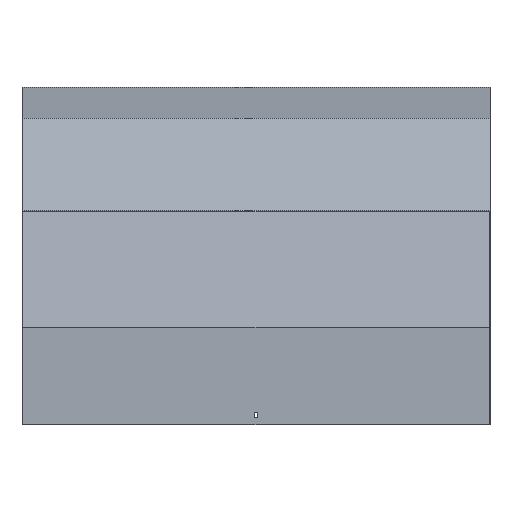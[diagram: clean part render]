
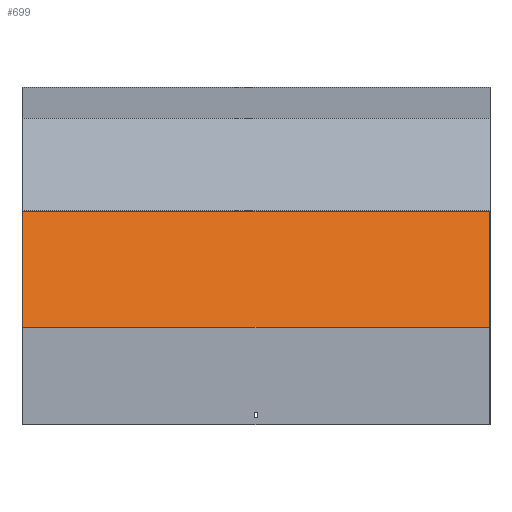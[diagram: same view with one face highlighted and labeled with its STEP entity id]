
A CAD part, top view. The second image highlights one B-rep face of the part: STEP entity #699.
In plain terms, the highlighted planar face has unit normal (0, 0.259, 0.966).
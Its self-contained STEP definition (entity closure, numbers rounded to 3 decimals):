
#23 = DIRECTION ( 'NONE',  ( -1., 0., 0. ) ) ;
#47 = EDGE_CURVE ( 'NONE', #513, #479, #607, .T. ) ;
#81 = ORIENTED_EDGE ( 'NONE', *, *, #896, .F. ) ;
#98 = VECTOR ( 'NONE', #988, 1000. ) ;
#110 = CARTESIAN_POINT ( 'NONE',  ( 401.5, -392.412, 579.045 ) ) ;
#175 = EDGE_CURVE ( 'NONE', #513, #384, #398, .T. ) ;
#180 = FACE_OUTER_BOUND ( 'NONE', #345, .T. ) ;
#217 = VERTEX_POINT ( 'NONE', #903 ) ;
#345 = EDGE_LOOP ( 'NONE', ( #857, #81, #978, #1031 ) ) ;
#357 = VECTOR ( 'NONE', #453, 1000. ) ;
#377 = AXIS2_PLACEMENT_3D ( 'NONE', #530, #868, #442 ) ;
#384 = VERTEX_POINT ( 'NONE', #1069 ) ;
#398 = LINE ( 'NONE', #814, #98 ) ;
#422 = DIRECTION ( 'NONE',  ( 0., -0.966, 0.259 ) ) ;
#442 = DIRECTION ( 'NONE',  ( 0., 0.966, -0.259 ) ) ;
#453 = DIRECTION ( 'NONE',  ( -1., 0., 0. ) ) ;
#479 = VERTEX_POINT ( 'NONE', #510 ) ;
#510 = CARTESIAN_POINT ( 'NONE',  ( -401.5, -192.473, 525.472 ) ) ;
#513 = VERTEX_POINT ( 'NONE', #1035 ) ;
#529 = VECTOR ( 'NONE', #422, 1000. ) ;
#530 = CARTESIAN_POINT ( 'NONE',  ( 401.5, -197.649, 526.859 ) ) ;
#607 = LINE ( 'NONE', #860, #357 ) ;
#611 = VECTOR ( 'NONE', #23, 1000. ) ;
#699 = ADVANCED_FACE ( 'NONE', ( #180 ), #958, .F. ) ;
#731 = LINE ( 'NONE', #110, #611 ) ;
#752 = LINE ( 'NONE', #1094, #529 ) ;
#814 = CARTESIAN_POINT ( 'NONE',  ( 401.5, -197.649, 526.859 ) ) ;
#857 = ORIENTED_EDGE ( 'NONE', *, *, #1112, .T. ) ;
#860 = CARTESIAN_POINT ( 'NONE',  ( 401.5, -192.473, 525.472 ) ) ;
#868 = DIRECTION ( 'NONE',  ( 0., -0.259, -0.966 ) ) ;
#896 = EDGE_CURVE ( 'NONE', #384, #217, #731, .T. ) ;
#903 = CARTESIAN_POINT ( 'NONE',  ( -401.5, -392.412, 579.045 ) ) ;
#958 = PLANE ( 'NONE',  #377 ) ;
#978 = ORIENTED_EDGE ( 'NONE', *, *, #175, .F. ) ;
#988 = DIRECTION ( 'NONE',  ( 0., -0.966, 0.259 ) ) ;
#1031 = ORIENTED_EDGE ( 'NONE', *, *, #47, .T. ) ;
#1035 = CARTESIAN_POINT ( 'NONE',  ( 401.5, -192.473, 525.472 ) ) ;
#1069 = CARTESIAN_POINT ( 'NONE',  ( 401.5, -392.412, 579.045 ) ) ;
#1094 = CARTESIAN_POINT ( 'NONE',  ( -401.5, -197.649, 526.859 ) ) ;
#1112 = EDGE_CURVE ( 'NONE', #479, #217, #752, .T. ) ;
